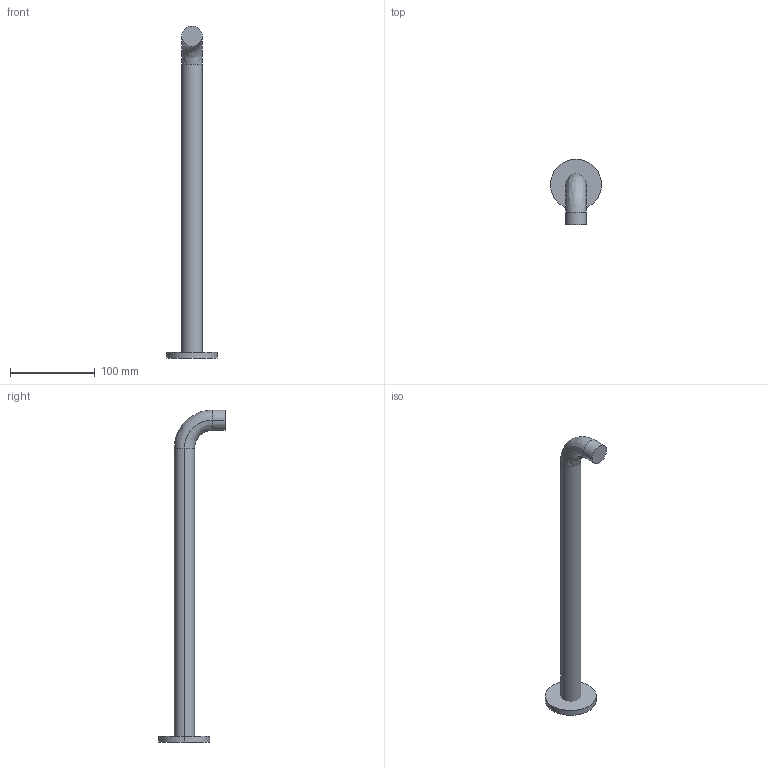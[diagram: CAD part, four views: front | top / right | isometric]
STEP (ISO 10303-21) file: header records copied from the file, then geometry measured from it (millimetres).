
FILE_DESCRIPTION(('FreeCAD Model'),'2;1');
FILE_NAME('Open CASCADE Shape Model','2024-07-25T14:25:43',('Author'),( ''),'Open CASCADE STEP processor 7.6','FreeCAD','Unknown');
FILE_SCHEMA(('AUTOMOTIVE_DESIGN { 1 0 10303 214 1 1 1 1 }'));
Length unit declared in the file: millimetre
Products named in the file (3): TopLevelAssembly; Wyciąganie001; Wyciągnięcie po ścieżce
Assembly tree (2 placements, depth 2):
  TopLevelAssembly
    Wyciąganie001
    Wyciągnięcie po ścieżce
Bounding box: 60 x 78 x 392 mm (x, y, z)
Volume: 207002 mm3; surface area: 39087.1 mm2
Topology: 2 solids, 2 shells, 12 faces, 20 edges, 12 vertices
Faces by surface type: cylinder 6, plane 4, bspline 2
Entity records: 372 total; most frequent: CARTESIAN_POINT 75, DIRECTION 60, ORIENTED_EDGE 40, AXIS2_PLACEMENT_3D 27, EDGE_CURVE 20, CIRCLE 14, ADVANCED_FACE 12, FACE_BOUND 12
